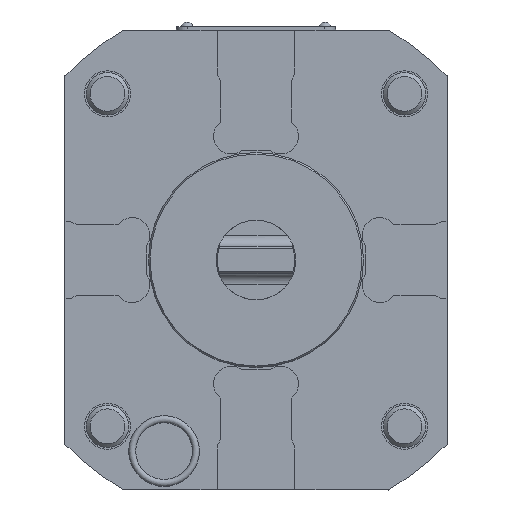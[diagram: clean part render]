
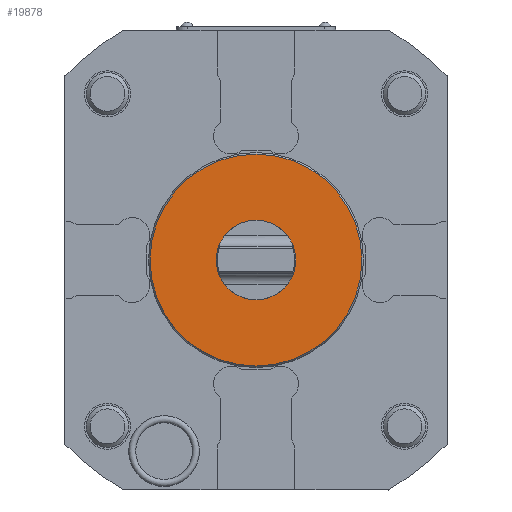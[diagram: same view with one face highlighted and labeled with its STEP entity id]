
A CAD part, left-side view. The second image highlights one B-rep face of the part: STEP entity #19878.
In plain terms, the highlighted planar face has unit normal (-1, 0, 0).
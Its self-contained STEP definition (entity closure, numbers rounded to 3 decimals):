
#8712=ORIENTED_EDGE('',*,*,#10104,.T.);
#8713=ORIENTED_EDGE('',*,*,#10105,.T.);
#9074=CIRCLE('',#19297,29.95);
#9075=CIRCLE('',#19299,11.25);
#9508=VERTEX_POINT('',#18557);
#9509=VERTEX_POINT('',#18560);
#10104=EDGE_CURVE('',#9508,#9508,#9074,.T.);
#10105=EDGE_CURVE('',#9509,#9509,#9075,.T.);
#10541=EDGE_LOOP('',(#8712));
#10542=EDGE_LOOP('',(#8713));
#11024=FACE_BOUND('',#10541,.T.);
#11025=FACE_BOUND('',#10542,.T.);
#12332=DIRECTION('',(-1.,0.,0.));
#12333=DIRECTION('',(0.,0.,29.95));
#12334=DIRECTION('',(-1.,0.,0.));
#12335=DIRECTION('',(0.,1.,0.));
#12336=DIRECTION('',(1.,0.,0.));
#12337=DIRECTION('',(0.,0.,11.25));
#18557=CARTESIAN_POINT('',(-53.,0.,29.95));
#18558=CARTESIAN_POINT('',(-53.,0.,0.));
#18559=CARTESIAN_POINT('',(-53.,0.,29.95));
#18560=CARTESIAN_POINT('',(-53.,0.003,11.25));
#18561=CARTESIAN_POINT('',(-53.,0.003,0.));
#19297=AXIS2_PLACEMENT_3D('',#18558,#12332,#12333);
#19298=AXIS2_PLACEMENT_3D('',#18559,#12334,#12335);
#19299=AXIS2_PLACEMENT_3D('',#18561,#12336,#12337);
#19599=PLANE('',#19298);
#19878=ADVANCED_FACE('',(#11024,#11025),#19599,.T.);
